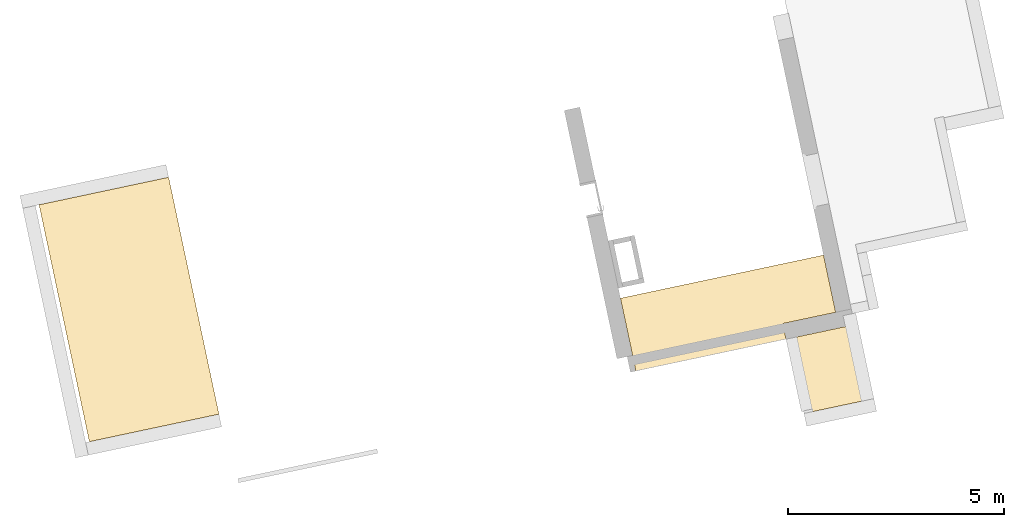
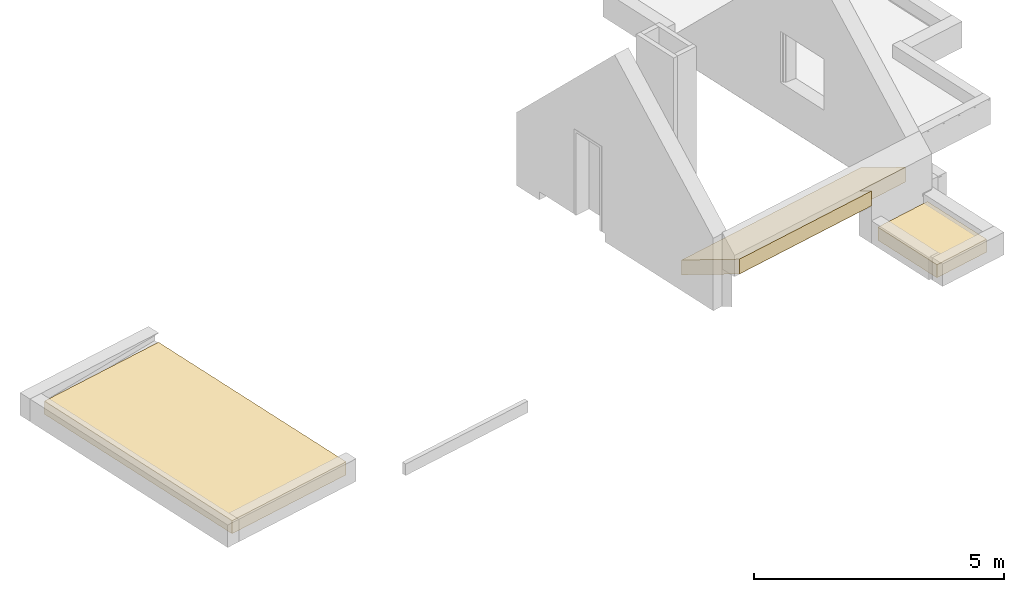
# One storey, part 4 of 5: 3 coverings.
"""IFC2X3 building model written with IfcOpenShell, lengths in centimetres."""

from ifc_helpers import new_model, entity, si_unit, converted_unit, derived_unit, direction, frame, frame_2d, origin, place, context, subcontext, project, spatial, rectangle, extrude, faceted_brep, material, layer, layer_set, layer_usage, type_object, element, save


model = new_model("IFC2X3")

# Units and contexts
model_context = context("Model", 3, precision=0.001, world=origin(), true_north=direction((6.12303176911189e-17, 1.0)))
body_context = subcontext(model_context, "Body", "Model", "MODEL_VIEW")
ifc_project = project(units=[si_unit("LENGTHUNIT", "METRE", prefix="CENTI"), si_unit("AREAUNIT", "SQUARE_METRE"), si_unit("VOLUMEUNIT", "CUBIC_METRE"), converted_unit("PLANEANGLEUNIT", "DEGREE", entity("IfcRatioMeasure", 0.0174532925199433), si_unit("PLANEANGLEUNIT", "RADIAN"), dimensions=[0, 0, 0, 0, 0, 0, 0]), si_unit("MASSUNIT", "GRAM", prefix="KILO"), derived_unit("MASSDENSITYUNIT", [(si_unit("MASSUNIT", "GRAM", prefix="KILO"), 1), (si_unit("LENGTHUNIT", "METRE"), -3)]), derived_unit("IONCONCENTRATIONUNIT", [(si_unit("MASSUNIT", "GRAM", prefix="KILO"), 1), (si_unit("LENGTHUNIT", "METRE"), -3)]), derived_unit("MOMENTOFINERTIAUNIT", [(si_unit("LENGTHUNIT", "METRE"), 4)]), si_unit("TIMEUNIT", "SECOND"), si_unit("FREQUENCYUNIT", "HERTZ"), si_unit("THERMODYNAMICTEMPERATUREUNIT", "DEGREE_CELSIUS"), derived_unit("THERMALTRANSMITTANCEUNIT", [(si_unit("MASSUNIT", "GRAM", prefix="KILO"), 1), (si_unit("THERMODYNAMICTEMPERATUREUNIT", "KELVIN"), -1), (si_unit("TIMEUNIT", "SECOND"), -3)]), derived_unit("THERMALCONDUCTANCEUNIT", [(si_unit("MASSUNIT", "GRAM", prefix="KILO"), 1), (si_unit("THERMODYNAMICTEMPERATUREUNIT", "KELVIN"), -1), (si_unit("TIMEUNIT", "SECOND"), -3), (si_unit("LENGTHUNIT", "METRE"), 1)]), derived_unit("VOLUMETRICFLOWRATEUNIT", [(si_unit("LENGTHUNIT", "METRE"), 3), (si_unit("TIMEUNIT", "SECOND"), -1)]), derived_unit("MASSFLOWRATEUNIT", [(si_unit("MASSUNIT", "GRAM", prefix="KILO"), 1), (si_unit("TIMEUNIT", "SECOND"), -1)]), derived_unit("ROTATIONALFREQUENCYUNIT", [(si_unit("TIMEUNIT", "SECOND"), -1)]), si_unit("ELECTRICCURRENTUNIT", "AMPERE"), si_unit("ELECTRICVOLTAGEUNIT", "VOLT"), si_unit("POWERUNIT", "WATT"), si_unit("FORCEUNIT", "NEWTON", prefix="KILO"), si_unit("ILLUMINANCEUNIT", "LUX"), si_unit("LUMINOUSFLUXUNIT", "LUMEN"), si_unit("LUMINOUSINTENSITYUNIT", "CANDELA"), derived_unit("USERDEFINED", [(si_unit("MASSUNIT", "GRAM", prefix="KILO"), -1), (si_unit("LENGTHUNIT", "METRE"), -2), (si_unit("TIMEUNIT", "SECOND"), 3), (si_unit("LUMINOUSFLUXUNIT", "LUMEN"), 1)]), derived_unit("USERDEFINED", [(si_unit("MASSUNIT", "GRAM", prefix="KILO"), 1), (si_unit("TIMEUNIT", "SECOND"), -3), (si_unit("LENGTHUNIT", "METRE"), 3), (si_unit("ELECTRICCURRENTUNIT", "AMPERE"), -2)]), derived_unit("SOUNDPOWERUNIT", [(si_unit("MASSUNIT", "GRAM", prefix="KILO"), 1), (si_unit("TIMEUNIT", "SECOND"), -3), (si_unit("LENGTHUNIT", "METRE"), 2)]), derived_unit("SOUNDPRESSUREUNIT", [(si_unit("MASSUNIT", "GRAM", prefix="KILO"), 1), (si_unit("LENGTHUNIT", "METRE"), -1), (si_unit("TIMEUNIT", "SECOND"), -2)]), derived_unit("LINEARVELOCITYUNIT", [(si_unit("LENGTHUNIT", "METRE"), 1), (si_unit("TIMEUNIT", "SECOND"), -1)]), si_unit("PRESSUREUNIT", "PASCAL"), derived_unit("USERDEFINED", [(si_unit("MASSUNIT", "GRAM", prefix="KILO"), 1), (si_unit("LENGTHUNIT", "METRE"), -2), (si_unit("TIMEUNIT", "SECOND"), -2)]), derived_unit("LINEARFORCEUNIT", [(si_unit("MASSUNIT", "GRAM", prefix="KILO"), 1), (si_unit("TIMEUNIT", "SECOND"), -2)]), derived_unit("PLANARFORCEUNIT", [(si_unit("MASSUNIT", "GRAM", prefix="KILO"), 1), (si_unit("LENGTHUNIT", "METRE"), -1), (si_unit("TIMEUNIT", "SECOND"), -2)]), derived_unit("SPECIFICHEATCAPACITYUNIT", [(si_unit("THERMODYNAMICTEMPERATUREUNIT", "KELVIN"), -1), (si_unit("LENGTHUNIT", "METRE"), 2), (si_unit("TIMEUNIT", "SECOND"), -2)]), derived_unit("HEATINGVALUEUNIT", [(si_unit("LENGTHUNIT", "METRE"), 2), (si_unit("TIMEUNIT", "SECOND"), -2)]), derived_unit("VAPORPERMEABILITYUNIT", [(si_unit("LENGTHUNIT", "METRE"), -1), (si_unit("TIMEUNIT", "SECOND"), 1)]), derived_unit("DYNAMICVISCOSITYUNIT", [(si_unit("MASSUNIT", "GRAM", prefix="KILO"), 1), (si_unit("TIMEUNIT", "SECOND"), -1), (si_unit("LENGTHUNIT", "METRE"), -1)]), derived_unit("THERMALEXPANSIONCOEFFICIENTUNIT", [(si_unit("THERMODYNAMICTEMPERATUREUNIT", "KELVIN"), -1)]), derived_unit("MODULUSOFELASTICITYUNIT", [(si_unit("MASSUNIT", "GRAM", prefix="KILO"), 1), (si_unit("LENGTHUNIT", "METRE"), -1), (si_unit("TIMEUNIT", "SECOND"), -2)]), derived_unit("ISOTHERMALMOISTURECAPACITYUNIT", [(si_unit("LENGTHUNIT", "METRE"), 3), (si_unit("MASSUNIT", "GRAM", prefix="KILO"), -1)]), derived_unit("MOISTUREDIFFUSIVITYUNIT", [(si_unit("TIMEUNIT", "SECOND"), -1), (si_unit("LENGTHUNIT", "METRE"), 2)])], contexts=[model_context])

# Site, building, storey
site_placement = place(None, frame((14083.8920177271, -6853.25409548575, 6900.0), z_axis=(0.0, 0.0, 1.0), x_axis=(0.978188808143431, 0.207717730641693, 0.0)))
site = spatial("IfcSite", under=ifc_project, at=site_placement, Name="Surface", CompositionType="ELEMENT")
building_placement = place(site_placement, origin())
building = spatial("IfcBuilding", under=site, at=building_placement, CompositionType="ELEMENT")
storey_placement = place(building_placement, frame((0.0, 0.0, 269.0)))
storey = spatial("IfcBuildingStorey", under=building, at=storey_placement, Name="***R+1 (SD)***", CompositionType="ELEMENT", Elevation=269.0)

# Coverings
ifc_material_1 = material(Name="Laine minérale")
ifc_layer_1 = layer(ifc_material_1, 30.0)
ifc_material_2 = material(Name="__ BA 13")
ifc_layer_2 = layer(ifc_material_2, 2.0)
ifc_layer_set = layer_set([ifc_layer_1, ifc_layer_2], Name="Plafond composé:*BA13+ suspentes métalliques ISO 30")
ifc_layer_usage = layer_usage(ifc_layer_set, "AXIS3", "POSITIVE", 0.0)
covering_type = type_object("IfcCoveringType", Name="Plafond composé:*BA13+ suspentes métalliques ISO 30", PredefinedType="CEILING")
covering_1_placement = place(storey_placement, origin())
element("IfcCovering", 1, at=covering_1_placement, inside=storey, type_object=covering_type, material=ifc_layer_usage, Name="Plafond composé:*BA13+ suspentes métalliques ISO 30", ObjectType="Plafond composé:*BA13+ suspentes métalliques ISO 30", PredefinedType="CEILING", context=body_context, shape_type="SweptSolid", body=[
    extrude(rectangle(XDim=133.499999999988, YDim=176.918698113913, at=frame_2d((-4.33431068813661e-13, 0.0), x_axis=(1.0, 0.0))), frame((-6331.56321908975, 14676.0918017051, 0.0), z_axis=(0.0, 0.0, 1.0), x_axis=(-1.0, 0.0, 0.0)), (0.0, 0.0, 1.0), 32.0),
])
covering_2_placement = place(storey_placement, origin())
element("IfcCovering", 2, at=covering_2_placement, inside=storey, type_object=covering_type, material=ifc_layer_usage, Name="Plafond composé:*BA13+ suspentes métalliques ISO 30", ObjectType="Plafond composé:*BA13+ suspentes métalliques ISO 30", PredefinedType="CEILING", context=body_context, shape_type="SweptSolid", body=[
    extrude(rectangle(XDim=307.000000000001, YDim=561.266666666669, at=frame_2d((51.1666666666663, -2.58637555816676e-12), x_axis=(1.0, 0.0))), frame((-7839.28847663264, 15148.3058112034, 0.0), z_axis=(0.0, 0.0, 1.0), x_axis=(-1.0, 0.0, 0.0)), (0.0, 0.0, 1.0), 32.0),
])
covering_3_placement = place(storey_placement, frame((-6770.9551432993, 14764.6724778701, 0.0)))
element("IfcCovering", 3, at=covering_3_placement, inside=storey, type_object=covering_type, material=ifc_layer_usage, Name="Plafond composé:*BA13+ suspentes métalliques ISO 30", ObjectType="Plafond composé:*BA13+ suspentes métalliques ISO 30", PredefinedType="CEILING", context=body_context, shape_type="Brep", body=[
    faceted_brep([(481.141924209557, 172.500000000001, 36.2422416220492), (0.0, 172.500000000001, 36.2422416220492), (0.0, 37.0, 108.288869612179), (0.0, 0.0, 127.962118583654), (355.641924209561, 0.0, 127.962118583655), (355.641924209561, 37.0, 108.28886961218), (481.141924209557, 37.0, 108.28886961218), (481.141924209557, 172.500000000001, 0.0), (481.141924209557, 37.0, 72.0466279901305), (355.641924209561, 37.0, 72.0466279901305), (355.641924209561, 1.3389263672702, 91.0079571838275), (355.641924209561, 0.0, 91.7198769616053), (0.0, 0.0, 91.7198769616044), (0.0, 1.3389263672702, 91.0079571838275), (0.0, 172.500000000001, 0.0)], [[[0, 1, 2, 3, 4, 5, 6]], [[7, 8, 9, 10, 11, 12, 13, 14]], [[1, 0, 7, 14]], [[3, 2, 1, 14, 13, 12]], [[6, 5, 9, 8]], [[0, 6, 8, 7]], [[4, 3, 12, 11]], [[5, 4, 11, 10, 9]]]),
])

save(model, "model.ifc")
